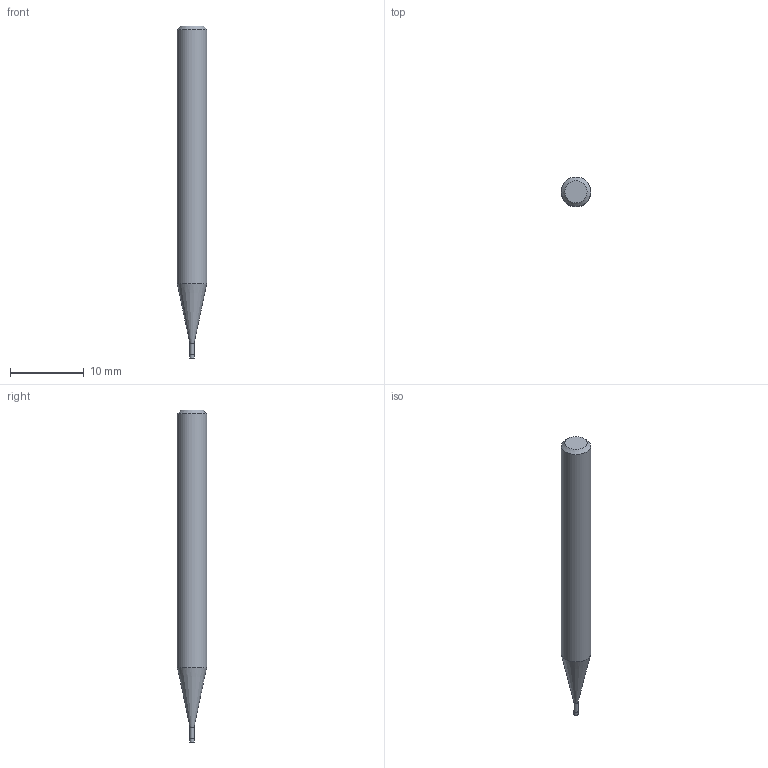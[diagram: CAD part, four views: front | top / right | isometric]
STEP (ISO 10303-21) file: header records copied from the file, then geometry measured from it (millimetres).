
FILE_DESCRIPTION((''),'2;1');
FILE_NAME('C:\Users\nsx150\AppData\Local\Temp\Mastercam 2021\RJ5U8K7RMU\TEMP.step','2021-04-21T16:40:23',(''),(''),'STEP Write','Mastercam 2021 ... CNC Software, Inc.','');
FILE_SCHEMA(('AUTOMOTIVE_DESIGN'));
Length unit declared in the file: millimetre
Products named in the file (1): None
Bounding box: 4 x 4 x 45 mm (x, y, z)
Volume: 477 mm3; surface area: 510.9 mm2
Topology: 2 solids, 2 shells, 9 faces, 12 edges, 7 vertices
Faces by surface type: plane 4, cylinder 3, cone 2
Full cylindrical faces by diameter (mm): 0.56 x1, 0.6 x1, 4 x1
Entity records: 211 total; most frequent: DIRECTION 36, CARTESIAN_POINT 25, AXIS2_PLACEMENT_3D 18, ORIENTED_EDGE 14, EDGE_LOOP 14, STYLED_ITEM 12, ADVANCED_FACE 9, FACE_BOUND 8
